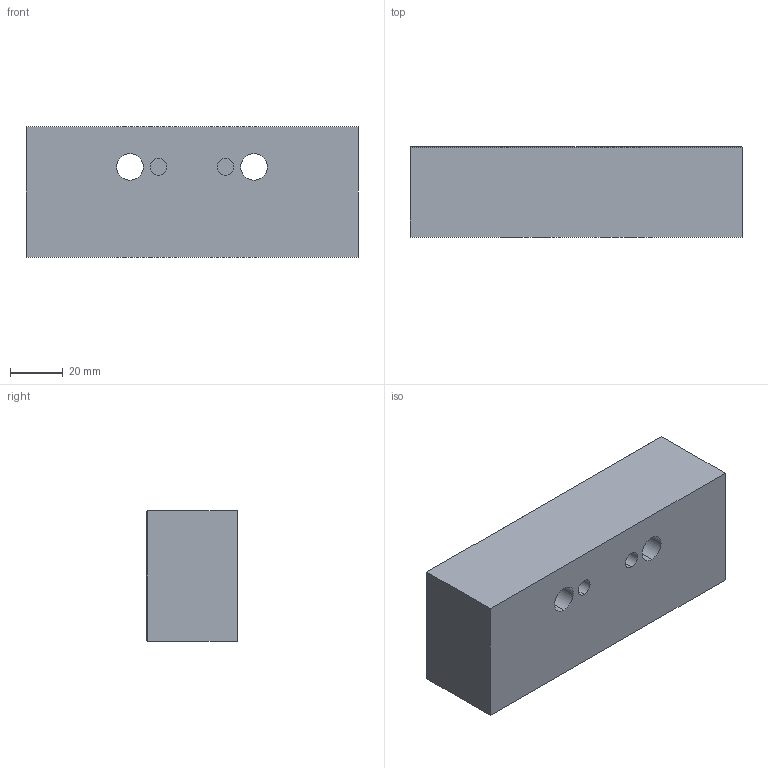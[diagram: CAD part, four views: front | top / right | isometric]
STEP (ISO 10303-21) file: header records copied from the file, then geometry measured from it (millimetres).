
FILE_DESCRIPTION (( 'STEP AP214' ), '1' );
FILE_NAME ('VAJ52.STEP', '2018-09-24T22:36:56', ( '' ), ( '' ), 'SwSTEP 2.0', 'SolidWorks 2017', '' );
FILE_SCHEMA (( 'AUTOMOTIVE_DESIGN' ));
Length unit declared in the file: inch
Products named in the file (1): VAJ52
Bounding box: 125.73 x 34.29 x 49.53 mm (x, y, z)
Volume: 201531.8 mm3; surface area: 27494.4 mm2
Topology: 1 solids, 1 shells, 30 faces, 64 edges, 40 vertices
Faces by surface type: plane 14, cylinder 12, cone 4
Entity records: 860 total; most frequent: DIRECTION 154, CARTESIAN_POINT 135, ORIENTED_EDGE 128, EDGE_CURVE 64, AXIS2_PLACEMENT_3D 59, VERTEX_POINT 40, EDGE_LOOP 38, LINE 36
